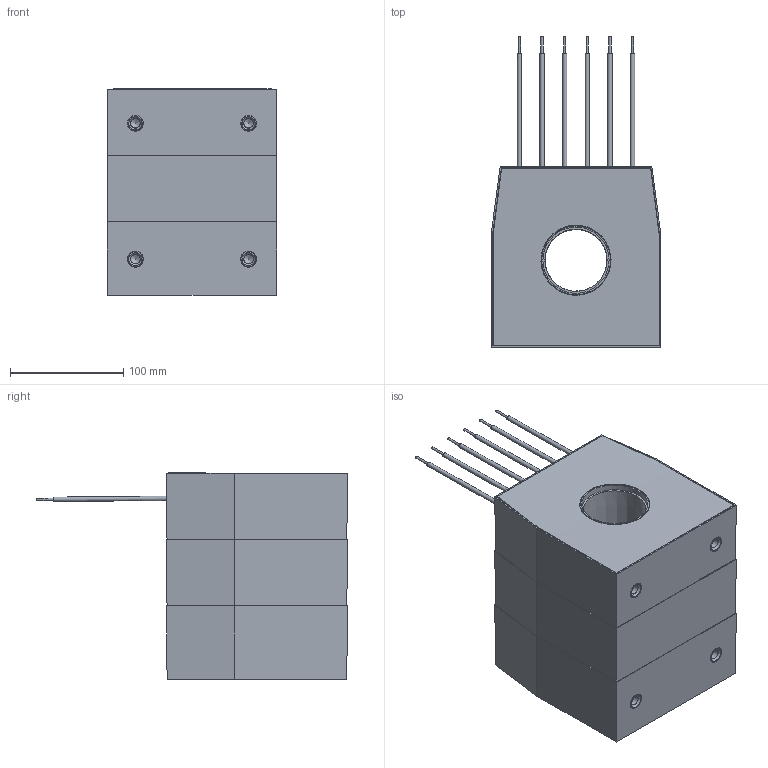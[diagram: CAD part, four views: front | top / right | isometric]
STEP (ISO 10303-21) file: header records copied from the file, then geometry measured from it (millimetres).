
FILE_DESCRIPTION(('STEP AP203'), '1');
FILE_NAME('ÒØÏ-ÍÒÇ-0,66-73Ñ (55 ìì, 3-é ãàáàðèò)', '2025-08-27T09:37:00', ('UNSPECIFIED'), ('UNSPECIFIED'), 'ASCON STEP Converter 1.3', 'ASCON Math Kernel', '');
FILE_SCHEMA(('CONFIG_CONTROL_DESIGN'));
Length unit declared in the file: millimetre
Assembly tree (18 placements, depth 2):
  (unnamed)
    (unnamed)
    (unnamed)
    (unnamed)
    (unnamed)  x3
    (unnamed)  x4
    (unnamed)  x2
    (unnamed)  x6
Bounding box: 150 x 274.82 x 182.68 mm (x, y, z)
Volume: 739833.8 mm3; surface area: 461503.5 mm2
Topology: 18 solids, 18 shells, 264 faces, 575 edges, 373 vertices
Faces by surface type: plane 165, cylinder 66, cone 25, torus 8
Full cylindrical faces by diameter (mm): 2 x6, 3.9 x6, 4 x5, 6 x8, 8.376 x4, 14 x8, 17 x4, 55 x1, 55.05 x1, 58.599 x6, 58.6 x1, 61 x2, 65.05 x1, 68.6 x1
Entity records: 7225 total; most frequent: CARTESIAN_POINT 920, DIRECTION 870, ORIENTED_EDGE 790, EDGE_CURVE 395, LINE 300, VECTOR 300, VERTEX_POINT 286, AXIS2_PLACEMENT_3D 285
